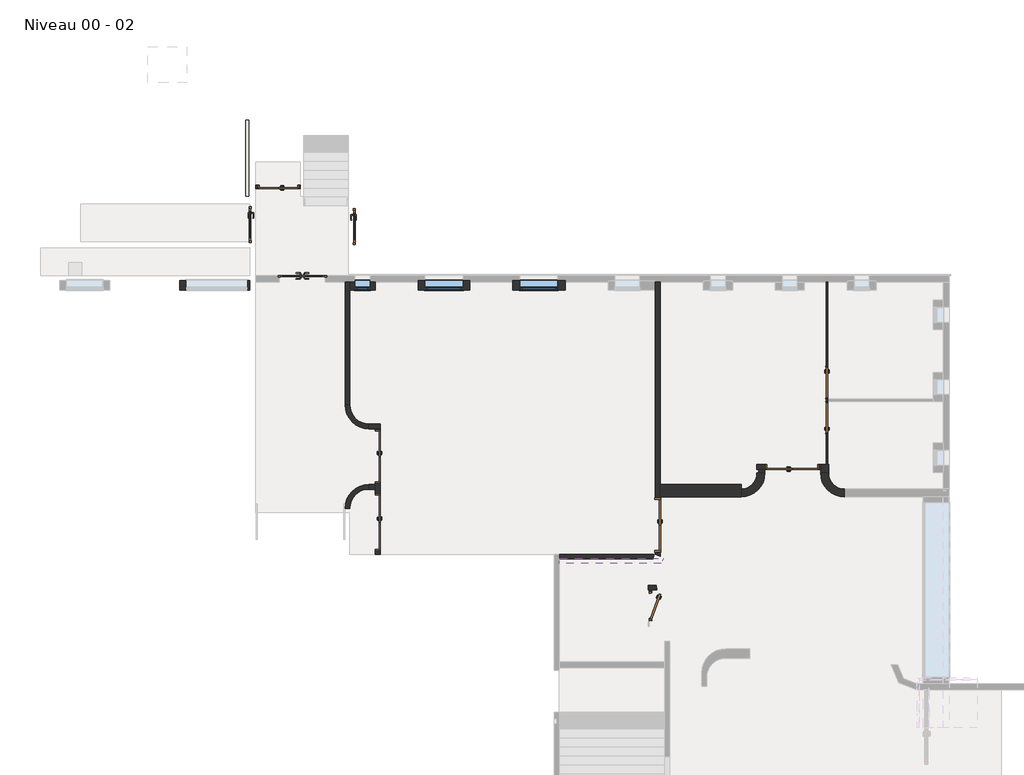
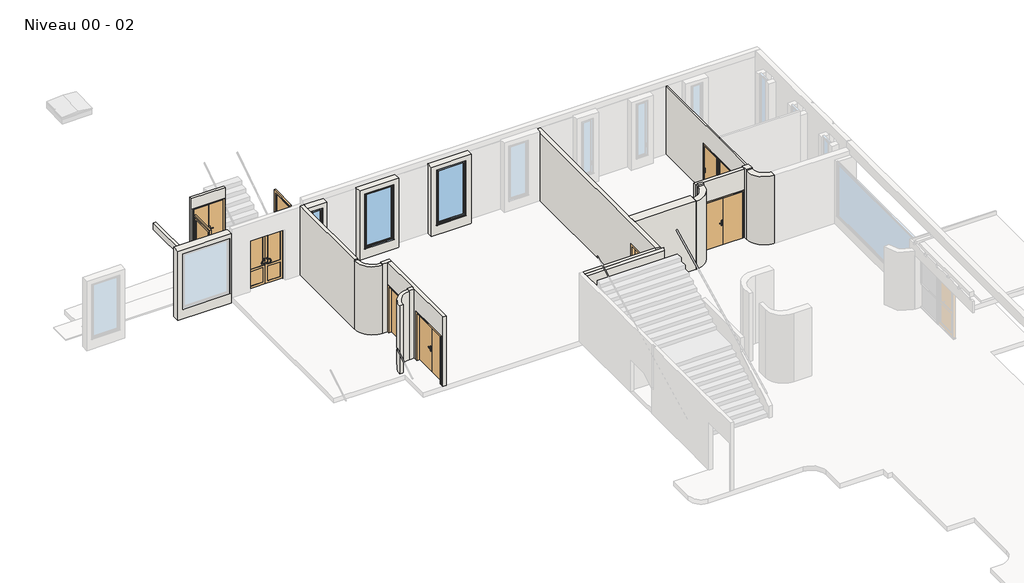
# One storey, part 4 of 6: 24 walls, 11 doors, 3 windows.
"""IFC4 building model written with IfcOpenShell, lengths in millimetres."""

from ifc_helpers import new_model, si_unit, point, frame, frame_2d, origin, place, context, project, spatial, polyline, circle_curve, trimmed, segment, composite_curve, outline, extrude, faceted_brep, transform, mapped, element, save
from ifc_brep_helpers import plane_surface, cylinder_surface, revolved_surface, advanced_brep
from components import door_a878cc18, door_bfc2bf88, door_bd61b35e, door_1_43m_x_2_20m_84f75056, door_103m_x_2_20m_4d5dba2b, door_103m_x_2_20m_9864a9ee, double_r_1_23m_x_2_04m_7282032c, double_r_1_63m_x_2_04m_8878719f, double_r_1_63m_x_2_04m_2a7b6570, double_r_1_63m_x_2_04m_953f21a6, double_r_1_73m_x_2_10m_095f5508, window_120_x_240_cm_ed0a219b, window_48_x_240_cm_3727ab81

model = new_model("IFC4")

# Units and contexts
model_context = context("Model", 3, world=origin())
ifc_project = project(units=[si_unit("LENGTHUNIT", "METRE", prefix="MILLI")], contexts=[model_context])

# Site, building, storey
site = spatial("IfcSite", under=ifc_project)
building = spatial("IfcBuilding", under=site)
storey = spatial("IfcBuildingStorey", under=building, Name="Niveau 00 - 02", Elevation=893.3082742)

# Doors
placement = place(None, origin())
door_shape = door_a878cc18(model_context)
element("IfcDoor", 1, ObjectType="@_Int. Simple : @_PP (0.93m x 2.04m)", at=placement, inside=storey, context=model_context, shape_type="MappedRepresentation", body=[
    mapped(door_shape, transform((-803.7390428, 7385.9436204, 893.3082742), x_axis=(0.0, -1.0, 0.0), y_axis=(1.0, 0.0, 0.0), z_axis=(0.0, 0.0, 1.0))),
])
door_2_shape = door_bfc2bf88(model_context)
element("IfcDoor", 2, ObjectType="@_Int. Simple : @_PP (0.93m x 2.04m)", at=placement, inside=storey, context=model_context, shape_type="MappedRepresentation", body=[
    mapped(door_2_shape, transform((-803.7390428, 6350.4198052, 893.3082742), x_axis=(0.0, 1.0, 0.0), y_axis=(-1.0, 0.0, 0.0), z_axis=(0.0, 0.0, 1.0))),
])
door_3_shape = door_bd61b35e(model_context)
element("IfcDoor", 3, ObjectType="@_Int. Simple : @_PP (0.83m x 2.04m)", at=placement, inside=storey, context=model_context, shape_type="MappedRepresentation", body=[
    mapped(door_3_shape, transform((-6346.1268419, 361.6441613, 893.3082742), x_axis=(0.0, -1.0, 0.0), y_axis=(1.0, 0.0, 0.0), z_axis=(0.0, 0.0, 1.0))),
])
door_1_43m_x_2_20m_shape = door_1_43m_x_2_20m_84f75056(model_context)
element("IfcDoor", 4, ObjectType="PVC Double - Panneaux vitrés haut : 1.43m x 2.20m", at=placement, inside=storey, context=model_context, shape_type="MappedRepresentation", body=[
    mapped(door_1_43m_x_2_20m_shape, transform((-17283.4367882, 10680.8848589, 893.3082742), x_axis=(1.0, 0.0, 0.0), y_axis=(0.0, 1.0, 0.0), z_axis=(0.0, 0.0, 1.0))),
])
door_103m_x_2_20m_shape = door_103m_x_2_20m_4d5dba2b(model_context)
element("IfcDoor", 5, ObjectType="PVC Panneau Vitré - Traverse : 103m x 2.20m", at=placement, inside=storey, context=model_context, shape_type="MappedRepresentation", body=[
    mapped(door_103m_x_2_20m_shape, transform((-18844.0938634, 12386.9176444, 893.3082742), x_axis=(0.0, -1.0, 0.0), y_axis=(1.0, 0.0, 0.0), z_axis=(0.0, 0.0, 1.0))),
])
door_103m_x_2_20m_2_shape = door_103m_x_2_20m_9864a9ee(model_context)
element("IfcDoor", 6, ObjectType="PVC Panneau Vitré - Traverse : 103m x 2.20m", at=placement, inside=storey, context=model_context, shape_type="MappedRepresentation", body=[
    mapped(door_103m_x_2_20m_2_shape, transform((-15735.8209314, 12326.9176444, 893.3082742), x_axis=(0.0, -1.0, 0.0), y_axis=(1.0, 0.0, 0.0), z_axis=(0.0, 0.0, 1.0))),
])
double_r_1_23m_x_2_04m_shape = double_r_1_23m_x_2_04m_7282032c(model_context)
element("IfcDoor", 7, ObjectType="Double (R) : 1.23m x 2.04m", at=placement, inside=storey, context=model_context, shape_type="MappedRepresentation", body=[
    mapped(double_r_1_23m_x_2_04m_shape, transform((-18034.0938634, 13571.9176444, 893.3082742), x_axis=(1.0, 0.0, 0.0), y_axis=(0.0, 1.0, 0.0), z_axis=(0.0, 0.0, 1.0))),
])
double_r_1_63m_x_2_04m_shape = double_r_1_63m_x_2_04m_8878719f(model_context)
element("IfcDoor", 8, ObjectType="Double (R) : 1.63m x 2.04m", at=placement, inside=storey, context=model_context, shape_type="MappedRepresentation", body=[
    mapped(double_r_1_63m_x_2_04m_shape, transform((-1889.3466725, 4763.5448052, 893.3082742), x_axis=(-1.0, 0.0, 0.0), y_axis=(0.0, -1.0, 0.0), z_axis=(0.0, 0.0, 1.0))),
])
double_r_1_63m_x_2_04m_2_shape = double_r_1_63m_x_2_04m_2a7b6570(model_context)
element("IfcDoor", 9, ObjectType="Double (R) : 1.63m x 2.04m", at=placement, inside=storey, context=model_context, shape_type="MappedRepresentation", body=[
    mapped(double_r_1_63m_x_2_04m_2_shape, transform((-14919.7120712, 5090.6996043, 893.3082742), x_axis=(0.0, 1.0, 0.0), y_axis=(-1.0, 0.0, 0.0), z_axis=(0.0, 0.0, 1.0))),
])
double_r_1_63m_x_2_04m_3_shape = double_r_1_63m_x_2_04m_953f21a6(model_context)
element("IfcDoor", 10, ObjectType="Double (R) : 1.63m x 2.04m", at=placement, inside=storey, context=model_context, shape_type="MappedRepresentation", body=[
    mapped(double_r_1_63m_x_2_04m_3_shape, transform((-6118.0226928, 2936.1922768, 893.3082742), x_axis=(0.0, 1.0, 0.0), y_axis=(-1.0, 0.0, 0.0), z_axis=(0.0, 0.0, 1.0))),
])
double_r_1_73m_x_2_10m_shape = double_r_1_73m_x_2_10m_095f5508(model_context)
element("IfcDoor", 11, ObjectType="Double (R) : 1.73m x 2.10m", at=placement, inside=storey, context=model_context, shape_type="MappedRepresentation", body=[
    mapped(double_r_1_73m_x_2_10m_shape, transform((-14919.7120712, 3028.322643, 893.3082742), x_axis=(0.0, 1.0, 0.0), y_axis=(-1.0, 0.0, 0.0), z_axis=(0.0, 0.0, 1.0))),
])

# Walls
element("IfcWall", 12, ObjectType="@_Générique - Int. 200 mm", at=placement, inside=storey, context=model_context, shape_type="Brep", body=[
    faceted_brep([(-2949.6844887, 4688.5448052, 893.3082742), (-2949.6844888, 4570.8848596, 893.3082742), (-2949.6844888, 4570.8848596, 3921.8727639), (-2949.6844887, 4688.5448052, 3921.8727639), (-2749.6844887, 4688.5448052, 893.3082742), (-2749.6844887, 4688.5448052, 3921.8727639), (-2749.6844888, 4570.8848595, 3921.8727639), (-2749.6844888, 4570.8848595, 3871.8727639), (-2749.6844888, 4570.8848595, 893.3082742)], [[[0, 1, 2, 3]], [[4, 5, 6, 7, 8]], [[1, 0, 4, 8]], [[2, 1, 8, 7, 6]], [[3, 2, 6, 5]], [[0, 3, 5, 4]]]),
])
element("IfcWall", 13, ObjectType="@_Générique - Int. 100 mm", at=placement, inside=storey, context=model_context, shape_type="SweptSolid", body=[
    extrude(outline(polyline([(-19063.9891753, 13288.4605943), (-19063.9891753, 15669.103386), (-18963.9891753, 15669.103386), (-18963.9891753, 13288.4605943), (-19063.9891753, 13288.4605943)])), frame((0.0, 0.0, 893.3082742), z_axis=(0.0, 0.0, 1.0), x_axis=(1.0, 0.0, 0.0)), (0.0, 0.0, 1.0), 300.0),
])
element("IfcWall", 14, ObjectType="@_Générique - Int. 100 mm", at=placement, inside=storey, context=model_context, shape_type="SweptSolid", body=[
    extrude(outline(polyline([(3437.9322848, -17344.0938634), (3437.9322848, -18744.0938634), (893.3082742, -18744.0938634), (893.3082742, -18684.0938634), (2968.3082742, -18684.0938634), (2968.3082742, -17384.0938634), (893.3082742, -17384.0938634), (893.3082742, -17344.0938634), (3437.9322848, -17344.0938634)])), frame((0.0, 13521.9176444, 0.0), z_axis=(0.0, 1.0, 0.0), x_axis=(0.0, 0.0, 1.0)), (0.0, 0.0, 1.0), 100.0),
])
element("IfcWall", 15, ObjectType="@_Générique - Int. 70 mm", at=placement, inside=storey, context=model_context, shape_type="AdvancedBrep", body=[
    advanced_brep(
    [(-6381.1268419, -253.7289625, 3043.9840697), (-6381.1268419, 896.271037, 3672.3151741), (-6381.1268419, 896.271037, 893.3082742), (-6381.1268419, 846.6441613, 893.3082742), (-6381.1268419, 846.6441613, 2968.3082742), (-6381.1268419, -53.3558387, 2968.3082742), (-6381.1268419, -53.3558387, 893.3082742), (-6381.1268419, -103.7289625, 893.3082742), (-6381.1268419, -253.7500561, 893.3082742), (-6381.1268419, -253.7500561, 2893.3082742), (-6311.1268419, 896.271037, 3672.3151741), (-6311.1268419, -253.7289625, 3043.9840697), (-6311.1268419, -253.7289625, 2893.3082742), (-6311.1268419, -258.0835845, 2893.3082742), (-6311.1268419, -258.0835845, 893.3082742), (-6311.1268419, -107.0420031, 893.3082742), (-6311.1268419, -53.3558387, 893.3082742), (-6311.1268419, -53.3558387, 2968.3082742), (-6311.1268419, 846.6441613, 2968.3082742), (-6311.1268419, 846.6441613, 893.3082742), (-6311.1268419, 896.271037, 893.3082742), (-6373.070957, -253.7289625, 2893.3082742), (-6378.6022513, -253.7289625, 2893.3082742)],
    [
        (0, 1),
        (1, 2),
        (2, 3),
        (3, 4),
        (4, 5),
        (5, 6),
        (6, 7),
        (7, 8),
        (8, 9),
        (9, 0),
        (10, 11),
        (11, 12),
        (12, 13),
        (13, 14),
        (14, 15),
        (15, 16),
        (16, 17),
        (17, 18),
        (18, 19),
        (19, 20),
        (20, 10),
        (2, 20),
        (19, 3),
        (14, 8, circle_curve(frame((-6375.8366042, -735.8221567, 893.3082742), z_axis=(0.0, 0.0, 1.0), x_axis=(1.0, 0.0, 0.0)), 482.101127)),
        (6, 16),
        (0, 11),
        (10, 1),
        (5, 17),
        (4, 18),
        (12, 21),
        (21, 13, circle_curve(frame((-6375.8366042, -735.8221567, 2893.3082742), z_axis=(0.0, 0.0, -1.0), x_axis=(1.0, 0.0, 0.0)), 482.101127)),
        (21, 22, circle_curve(frame((-6375.8366042, -735.8221567, 2893.3082742), z_axis=(0.0, 0.0, 1.0), x_axis=(1.0, 0.0, 0.0)), 482.101127)),
        (22, 9, circle_curve(frame((-6375.8366042, -735.8221567, 2893.3082742), z_axis=(0.0, 0.0, 1.0), x_axis=(1.0, 0.0, 0.0)), 482.101127)),
    ],
    [
        plane_surface(frame((-6381.1268419, 971.271037, 893.3082742), z_axis=(-1.0, 0.0, 0.0), x_axis=(0.0, -1.0, 0.0))),
        plane_surface(frame((-6311.1268419, 971.271037, 893.3082742), z_axis=(1.0, 0.0, 0.0), x_axis=(0.0, 1.0, 0.0))),
        plane_surface(frame((-6381.1268419, 971.271037, 893.3082742), z_axis=(0.0, 0.0, -1.0), x_axis=(1.0, 0.0, 0.0))),
        plane_surface(frame((-6381.1268419, -179.5137927, 3084.5333737), z_axis=(0.0, -0.47947445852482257, 0.8775558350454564), x_axis=(1.0, 0.0, 0.0))),
        plane_surface(frame((-7835.1268419, -53.3558387, 893.3082742), z_axis=(0.0, 1.0, 0.0), x_axis=(1.0, 0.0, 0.0))),
        plane_surface(frame((-7835.1268419, -53.3558387, 2968.3082742), z_axis=(0.0, 0.0, -1.0), x_axis=(1.0, 0.0, 0.0))),
        plane_surface(frame((-7835.1268419, 846.6441613, 2968.3082742), z_axis=(0.0, -1.0, 0.0), x_axis=(1.0, 0.0, 0.0))),
        plane_surface(frame((-6284.0, 896.271037, 893.3082742), z_axis=(0.0, 1.0, 0.0), x_axis=(1.0, 0.0, 0.0))),
        plane_surface(frame((-6381.1268419, -179.5137927, 2893.3082742), z_axis=(0.0, 0.0, 1.0), x_axis=(1.0, 0.0, 0.0))),
        revolved_surface(polyline([(-5893.7354772, -735.8221567, 893.3082742), (-5893.7354772, -735.8221567, 2893.3082742)]), (-6375.8366042, -735.8221567, 893.3082742), (0.0, 0.0, -1.0)),
        plane_surface(frame((-6353.6352589, -253.7289625, 893.3082742), z_axis=(0.0, -1.0, 0.0), x_axis=(1.0, 0.0, 0.0))),
    ],
    [
        (0, [[1, 2, 3, 4, 5, 6, 7, 8, 9, 10]]),
        (1, [[11, 12, 13, 14, 15, 16, 17, 18, 19, 20, 21]]),
        (2, [[22, -20, 23, -3]]),
        (2, [[24, -8, -7, 25, -16, -15]]),
        (3, [[-1, 26, -11, 27]]),
        (4, [[28, -17, -25, -6]]),
        (5, [[-28, -5, 29, -18]]),
        (6, [[-29, -4, -23, -19]]),
        (7, [[-2, -27, -21, -22]]),
        (8, [[-13, 30, 31]]),
        (9, [[-24, -14, -31, 32, 33, -9]]),
        (10, [[-26, -10, -33, -32, -30, -12]]),
    ],
),
])
element("IfcWall", 16, ObjectType="@_Générique - Int. 50 mm", at=placement, inside=storey, context=model_context, shape_type="Brep", body=[
    faceted_brep([(-828.7390428, 4838.5448052, 893.3082742), (-828.7390428, 4838.5448052, 3871.8727639), (-828.7390428, 10580.8848589, 3871.8727639), (-828.7390428, 10580.8848589, 893.3082742), (-828.7390428, 7920.9436204, 893.3082742), (-828.7390428, 7920.9436204, 2968.3082742), (-828.7390428, 6920.9436204, 2968.3082742), (-828.7390428, 6920.9436204, 893.3082742), (-828.7390428, 6815.4198052, 893.3082742), (-828.7390428, 6815.4198052, 2968.3082742), (-828.7390428, 5815.4198052, 2968.3082742), (-828.7390428, 5815.4198052, 893.3082742), (-778.7390428, 4838.5448052, 3871.8727639), (-778.7390428, 4838.5448052, 893.3082742), (-778.7390428, 5815.4198052, 893.3082742), (-778.7390428, 5815.4198052, 2968.3082742), (-778.7390428, 6815.4198052, 2968.3082742), (-778.7390428, 6815.4198052, 893.3082742), (-778.7390428, 6830.6817128, 893.3082742), (-778.7390428, 6900.6817128, 893.3082742), (-778.7390428, 6920.9436204, 893.3082742), (-778.7390428, 6920.9436204, 2968.3082742), (-778.7390428, 7920.9436204, 2968.3082742), (-778.7390428, 7920.9436204, 893.3082742), (-778.7390428, 10580.8848589, 893.3082742), (-778.7390428, 10580.8848589, 3871.8727639), (-778.7390428, 6900.6817128, 3871.8727639), (-778.7390428, 6830.6817128, 3871.8727639)], [[[0, 1, 2, 3, 4, 5, 6, 7, 8, 9, 10, 11]], [[12, 13, 14, 15, 16, 17, 18, 19, 20, 21, 22, 23, 24, 25, 26, 27]], [[13, 0, 11, 14]], [[17, 8, 7, 20, 19, 18]], [[3, 24, 23, 4]], [[1, 0, 13, 12]], [[9, 8, 17, 16]], [[11, 10, 15, 14]], [[15, 10, 9, 16]], [[2, 1, 12, 27, 26, 25]], [[3, 2, 25, 24]], [[6, 21, 20, 7]], [[21, 6, 5, 22]], [[22, 5, 4, 23]]]),
])
element("IfcWall", 17, ObjectType="Ext. Voile BA 150", at=placement, inside=storey, context=model_context, shape_type="Brep", body=[
    faceted_brep([(-15943.9891644, 10580.8848589, 893.3082742), (-15943.9891644, 6715.6996048, 893.3082742), (-15943.9891644, 6715.6996048, 3871.8727639), (-15943.9891644, 6715.6996048, 3921.8727639), (-15943.9891644, 10580.8848589, 3921.8727639), (-15793.9891644, 10580.8848589, 893.3082742), (-15793.9891644, 10580.8848589, 3921.8727639), (-15793.9891644, 10320.8848589, 3921.8727639), (-15793.9891644, 6715.6996048, 3921.8727639), (-15793.9891644, 6715.6996048, 3871.8727639), (-15793.9891644, 6715.6996048, 893.3082742), (-15793.9891644, 10320.8848589, 893.3082742)], [[[0, 1, 2, 3, 4]], [[5, 6, 7, 8, 9, 10, 11]], [[1, 0, 5, 11, 10]], [[3, 2, 1, 10, 9, 8]], [[4, 3, 8, 7, 6]], [[0, 4, 6, 5]]]),
])
element("IfcWall", 18, ObjectType="Ext. Voile BA 150", at=placement, inside=storey, context=model_context, shape_type="Brep", body=[
    faceted_brep([(-14844.7120712, 6115.6996043, 893.3082742), (-15193.9891647, 6115.6996043, 893.3082742), (-15193.9891647, 6115.6996043, 3871.8727639), (-15193.9891647, 6115.6996043, 3921.8727639), (-14844.7120712, 6115.6996043, 3921.8727639), (-14844.7120712, 5965.6996043, 893.3082742), (-14844.7120712, 5965.6996043, 3921.8727639), (-14994.7120712, 5965.6996043, 3921.8727639), (-15193.9891647, 5965.6996043, 3921.8727639), (-15193.9891647, 5965.6996043, 3871.8727639), (-15193.9891647, 5965.6996043, 893.3082742), (-14994.7120712, 5965.6996043, 893.3082742)], [[[0, 1, 2, 3, 4]], [[5, 6, 7, 8, 9, 10, 11]], [[1, 0, 5, 11, 10]], [[3, 2, 1, 10, 9, 8]], [[4, 3, 8, 7, 6]], [[0, 4, 6, 5]]]),
])
element("IfcWall", 19, ObjectType="Ext. Voile BA 150", at=placement, inside=storey, context=model_context, shape_type="SweptSolid", body=[
    extrude(outline(composite_curve([segment(polyline([(-15943.9891647, 6715.6996049), (-15793.9891647, 6715.6996047)]), True, "CONTINUOUS"), segment(trimmed(circle_curve(frame_2d((-15193.9891647, 6715.6996039)), 600.0), [point((-15793.9891647, 6715.6996047))], [point((-15193.9891647, 6115.6996039))], True, "CARTESIAN"), True, "CONTINUOUS"), segment(polyline([(-15193.9891647, 6115.6996039), (-15193.9891647, 5965.6996039)]), True, "CONTINUOUS"), segment(trimmed(circle_curve(frame_2d((-15193.9891647, 6715.6996039)), 750.0), [point((-15193.9891647, 5965.6996039))], [point((-15943.9891647, 6715.6996049))], False, "CARTESIAN"), True, "CONTINUOUS")], self_intersect=False)), frame((0.0, 0.0, 893.3082742), z_axis=(0.0, 0.0, 1.0), x_axis=(1.0, 0.0, 0.0)), (0.0, 0.0, 1.0), 2978.5644896),
])
element("IfcWall", 20, ObjectType="Ext. Voile BA 150", at=placement, inside=storey, context=model_context, shape_type="Brep", body=[
    faceted_brep([(-14994.7120712, 4215.6996044, 893.3082742), (-15193.9891688, 4215.6996044, 893.3082742), (-15193.9891688, 4215.6996044, 3871.8727639), (-15193.9891688, 4215.6996044, 3921.8727639), (-14994.7120712, 4215.6996044, 3921.8727639), (-14994.7120712, 4065.6996044, 893.3082742), (-14994.7120712, 4065.6996044, 3921.8727639), (-15193.9891688, 4065.6996044, 3921.8727639), (-15193.9891688, 4065.6996044, 3871.8727639), (-15193.9891688, 4065.6996044, 893.3082742)], [[[0, 1, 2, 3, 4]], [[5, 6, 7, 8, 9]], [[1, 0, 5, 9]], [[3, 2, 1, 9, 8, 7]], [[4, 3, 7, 6]], [[0, 4, 6, 5]]]),
])
element("IfcWall", 21, ObjectType="Ext. Voile BA 150", at=placement, inside=storey, context=model_context, shape_type="SweptSolid", body=[
    extrude(outline(composite_curve([segment(polyline([(-15793.9891688, 3465.6996039), (-15943.9891688, 3465.6996037)]), True, "CONTINUOUS"), segment(trimmed(circle_curve(frame_2d((-15193.9891688, 3465.6996047)), 750.0), [point((-15943.9891688, 3465.6996037))], [point((-15193.9891688, 4215.6996047))], False, "CARTESIAN"), True, "CONTINUOUS"), segment(polyline([(-15193.9891688, 4215.6996047), (-15193.9891688, 4065.6996047)]), True, "CONTINUOUS"), segment(trimmed(circle_curve(frame_2d((-15193.9891688, 3465.6996047)), 600.0), [point((-15193.9891688, 4065.6996047))], [point((-15793.9891688, 3465.6996039))], True, "CARTESIAN"), True, "CONTINUOUS")], self_intersect=False)), frame((0.0, 0.0, 893.3082742), z_axis=(0.0, 0.0, 1.0), x_axis=(1.0, 0.0, 0.0)), (0.0, 0.0, 1.0), 2978.5644896),
])
element("IfcWall", 22, ObjectType="Ext. Voile BA 150", at=placement, inside=storey, context=model_context, shape_type="Brep", body=[
    faceted_brep([(-6171.9421248, 1046.271037, 893.3082742), (-6416.4826157, 1046.271037, 893.3082742), (-6416.4826157, 1046.271037, 3871.8727639), (-6171.9421248, 1046.271037, 3871.8727639), (-6145.998807, 896.271037, 893.3082742), (-6145.998807, 896.271037, 3871.8727639), (-6416.4826157, 896.271037, 3871.8727639), (-6416.4826157, 896.271037, 893.3082742), (-6381.1268419, 896.271037, 893.3082742), (-6311.1268419, 896.271037, 893.3082742), (-6416.4826157, 1004.4291646, 3871.8727639), (-6164.7053449, 1004.4291646, 3871.8727639)], [[[0, 1, 2, 3]], [[4, 5, 6, 7, 8, 9]], [[1, 0, 4, 9, 8, 7]], [[2, 1, 7, 6, 10]], [[10, 6, 5, 11]], [[3, 2, 10, 11]], [[0, 3, 11, 5, 4]]]),
])
element("IfcWall", 23, ObjectType="Ext. Voile BA 150", at=placement, inside=storey, context=model_context, shape_type="Brep", body=[
    faceted_brep([(-3007.810838, 4838.5448052, 893.3082742), (-3007.810838, 4838.5448052, 3871.8727639), (-999.7174383, 4838.5448052, 3871.8727639), (-999.7174383, 4838.5448052, 893.3082742), (-1039.3466725, 4838.5448052, 893.3082742), (-1039.3466725, 4838.5448052, 2968.3082742), (-2739.3466725, 4838.5448052, 2968.3082742), (-2739.3466725, 4838.5448052, 893.3082742), (-3007.810838, 4688.5448052, 3871.8727639), (-3007.810838, 4688.5448052, 893.3082742), (-2949.6844887, 4688.5448052, 893.3082742), (-2749.6844887, 4688.5448052, 893.3082742), (-2739.3466725, 4688.5448052, 893.3082742), (-2739.3466725, 4688.5448052, 2968.3082742), (-1039.3466725, 4688.5448052, 2968.3082742), (-1039.3466725, 4688.5448052, 893.3082742), (-999.7174382, 4688.5448052, 893.3082742), (-999.7174382, 4688.5448052, 3871.8727639)], [[[0, 1, 2, 3, 4, 5, 6, 7]], [[8, 9, 10, 11, 12, 13, 14, 15, 16, 17]], [[9, 0, 7, 12, 11, 10]], [[3, 16, 15, 4]], [[1, 0, 9, 8]], [[3, 2, 17, 16]], [[6, 13, 12, 7]], [[14, 5, 4, 15]], [[5, 14, 13, 6]], [[2, 1, 8, 17]]]),
])
element("IfcWall", 24, ObjectType="Ext. Voile BA 150", at=placement, inside=storey, context=model_context, shape_type="Brep", body=[
    faceted_brep([(-14994.7120712, 2020.9456807, 3921.8727639), (-14994.7120712, 4065.6996044, 3921.8727639), (-14994.7120712, 4215.6996044, 3921.8727639), (-14994.7120712, 5965.6996043, 3921.8727639), (-14994.7120712, 5965.6996043, 893.3082742), (-14994.7120712, 5940.6996043, 893.3082742), (-14994.7120712, 5940.6996043, 2968.3082742), (-14994.7120712, 4240.6996043, 2968.3082742), (-14994.7120712, 4240.6996043, 893.3082742), (-14994.7120712, 4215.6996044, 893.3082742), (-14994.7120712, 4065.6996044, 893.3082742), (-14994.7120712, 3928.322643, 893.3082742), (-14994.7120712, 3928.322643, 3028.3082742), (-14994.7120712, 2128.322643, 3028.3082742), (-14994.7120712, 2128.322643, 893.3082742), (-14994.7120712, 2020.9456807, 893.3082742), (-14844.7120712, 5965.6996043, 3921.8727639), (-14844.7120712, 2020.9456807, 3921.8727639), (-14844.7120712, 2020.9456807, 893.3082742), (-14844.7120712, 2128.322643, 893.3082742), (-14844.7120712, 2128.322643, 3028.3082742), (-14844.7120712, 3928.322643, 3028.3082742), (-14844.7120712, 3928.322643, 893.3082742), (-14844.7120712, 4240.6996043, 893.3082742), (-14844.7120712, 4240.6996043, 2968.3082742), (-14844.7120712, 5940.6996043, 2968.3082742), (-14844.7120712, 5940.6996043, 893.3082742), (-14844.7120712, 5965.6996043, 893.3082742)], [[[0, 1, 2, 3, 4, 5, 6, 7, 8, 9, 10, 11, 12, 13, 14, 15]], [[16, 17, 18, 19, 20, 21, 22, 23, 24, 25, 26, 27]], [[18, 15, 14, 19]], [[8, 23, 22, 11, 10, 9]], [[4, 27, 26, 5]], [[3, 2, 1, 0, 17, 16]], [[4, 3, 16, 27]], [[6, 5, 26, 25]], [[8, 7, 24, 23]], [[0, 15, 18, 17]], [[21, 12, 11, 22]], [[13, 20, 19, 14]], [[24, 7, 6, 25]], [[20, 13, 12, 21]]]),
])
element("IfcWall", 25, ObjectType="Ext. Voile BA 150", at=placement, inside=storey, context=model_context, shape_type="Brep", body=[
    faceted_brep([(-9213.9891683, 1736.4996925, 3195.2244093), (-6009.794044, 1736.4996925, 3195.2244093), (-6009.794044, 1736.4996925, 3871.8727639), (-9213.9891683, 1736.4996925, 3871.8727639), (-9213.9891683, 1886.4996925, 3195.2244093), (-9213.9891683, 1886.4996925, 3871.8727639), (-6255.2305404, 1886.4996925, 3871.8727639), (-5949.2931736, 1886.4996925, 3871.8727639), (-5949.2931736, 1886.4996925, 3195.2244093), (-6255.2305404, 1886.4996925, 3195.2244093)], [[[0, 1, 2, 3]], [[4, 5, 6, 7, 8, 9]], [[1, 0, 4, 9, 8]], [[0, 3, 5, 4]], [[3, 2, 7, 6, 5]], [[2, 1, 8, 7]]]),
])
element("IfcWall", 26, ObjectType="Ext. Voile BA 150", at=placement, inside=storey, context=model_context, shape_type="Brep", body=[
    faceted_brep([(-6244.8698335, 2020.9456807, 893.3082742), (-9213.9891683, 2020.9456807, 893.3082742), (-9213.9891683, 2020.9456807, 3871.8727639), (-6244.8698335, 2020.9456807, 3871.8727639), (-6256.4291671, 1870.9456807, 893.3082742), (-6256.4291671, 1870.9456807, 3871.8727639), (-9213.9891683, 1870.9456807, 3871.8727639), (-9213.9891683, 1870.9456807, 893.3082742), (-6255.2305404, 1886.4996925, 3871.8727639)], [[[0, 1, 2, 3]], [[4, 5, 6, 7]], [[1, 0, 4, 7]], [[3, 2, 6, 5, 8]], [[0, 3, 8, 5, 4]], [[2, 1, 7, 6]]]),
])
element("IfcWall", 27, ObjectType="Ext. Voile BA 160", at=placement, inside=storey, context=model_context, shape_type="AdvancedBrep", body=[
    advanced_brep(
    [(-6198.0226928, 10580.8848589, 3871.8727639), (-6198.0226928, 10580.8848589, 893.3082742), (-6198.0226928, 10320.8848589, 893.3082742), (-6198.0226928, 3786.1922768, 893.3082742), (-6198.0226928, 3786.1922768, 2968.3082742), (-6198.0226928, 2086.1922768, 2968.3082742), (-6198.0226928, 2086.1922768, 893.3082742), (-6198.0226928, 2012.2170502, 893.3082742), (-6198.0226928, 2012.2170502, 3871.8727639), (-6038.0226928, 10580.8848589, 893.3082742), (-6038.0226928, 10580.8848589, 3871.8727639), (-6038.0226928, 4220.8848607, 3871.8727639), (-6038.0226928, 3820.8848607, 3871.8727639), (-6038.0226928, 1949.4094127, 3871.8727639), (-6038.0226928, 1949.4094127, 893.3082742), (-6038.0226928, 2086.1922768, 893.3082742), (-6038.0226928, 2086.1922768, 2968.3082742), (-6038.0226928, 3786.1922768, 2968.3082742), (-6038.0226928, 3786.1922768, 893.3082742), (-6038.0226928, 3820.8848607, 893.3082742), (-6038.0226928, 4220.8848607, 893.3082742)],
    [
        (0, 1),
        (1, 2),
        (2, 3),
        (3, 4),
        (4, 5),
        (5, 6),
        (6, 7),
        (7, 8),
        (8, 0),
        (9, 10),
        (10, 11),
        (11, 12),
        (12, 13),
        (13, 14),
        (14, 15),
        (15, 16),
        (16, 17),
        (17, 18),
        (18, 19),
        (19, 20),
        (20, 9),
        (1, 9),
        (18, 3),
        (14, 7, circle_curve(frame((-6327.5730307, 1446.9919416, 893.3082742), z_axis=(0.0, 0.0, 1.0), x_axis=(0.0, 1.0, 0.0)), 579.8816375)),
        (6, 15),
        (0, 10),
        (17, 4),
        (5, 16),
        (8, 13, circle_curve(frame((-6327.5730307, 1446.9919416, 3871.8727639), z_axis=(0.0, 0.0, -1.0), x_axis=(0.0, 1.0, 0.0)), 579.8816375)),
    ],
    [
        plane_surface(frame((-6198.0226928, 2960.4999999, 893.3082742), z_axis=(-1.0, 0.0, 0.0), x_axis=(0.0, -1.0, 0.0))),
        plane_surface(frame((-6038.0226928, 2960.4999999, 893.3082742), z_axis=(1.0, 0.0, 0.0), x_axis=(0.0, 1.0, 0.0))),
        plane_surface(frame((-6198.0226928, 10680.8848589, 893.3082742), z_axis=(0.0, 0.0, -1.0), x_axis=(1.0, 0.0, 0.0))),
        plane_surface(frame((-14028.1532696, 10580.8848589, 893.3082742), z_axis=(0.0, 1.0, 0.0), x_axis=(1.0, 0.0, 0.0))),
        plane_surface(frame((-4514.0226928, 3786.1922768, 893.3082742), z_axis=(0.0, -1.0, 0.0), x_axis=(-1.0, 0.0, 0.0))),
        plane_surface(frame((-4514.0226928, 2086.1922768, 2968.3082742), z_axis=(0.0, 1.0, 0.0), x_axis=(-1.0, 0.0, 0.0))),
        plane_surface(frame((-4514.0226928, 3786.1922768, 2968.3082742), z_axis=(0.0, 0.0, -1.0), x_axis=(-1.0, 0.0, 0.0))),
        plane_surface(frame((-25843.9891731, 10670.8848595, 3871.8727639), z_axis=(0.0, 0.0, 1.0), x_axis=(0.0, 1.0, 0.0))),
        revolved_surface(polyline([(-6327.5730307, 2026.8735791, 3871.8727639), (-6327.5730307, 2026.8735791, 893.3082742)]), (-6327.5730307, 1446.9919416, 893.3082742), (0.0, 0.0, 1.0)),
    ],
    [
        (0, [[1, 2, 3, 4, 5, 6, 7, 8, 9]]),
        (1, [[10, 11, 12, 13, 14, 15, 16, 17, 18, 19, 20, 21]]),
        (2, [[22, -21, -20, -19, 23, -3, -2]]),
        (2, [[24, -7, 25, -15]]),
        (3, [[-1, 26, -10, -22]]),
        (4, [[27, -4, -23, -18]]),
        (5, [[28, -16, -25, -6]]),
        (6, [[-28, -5, -27, -17]]),
        (7, [[-9, 29, -13, -12, -11, -26]]),
        (8, [[-8, -24, -14, -29]]),
    ],
),
])
element("IfcWall", 28, ObjectType="Ext. Voile BA 250", at=placement, inside=storey, context=model_context, shape_type="SweptSolid", body=[
    extrude(outline(composite_curve([segment(polyline([(-249.7174369, 4070.8848607), (-249.7174369, 3820.8848607)]), True, "CONTINUOUS"), segment(trimmed(circle_curve(frame_2d((-249.7174369, 4570.8848601)), 749.9999993), [point((-249.7174369, 3820.8848607))], [point((-999.7174362, 4570.8848606))], False, "CARTESIAN"), True, "CONTINUOUS"), segment(polyline([(-999.7174362, 4570.8848606), (-749.7174362, 4570.8848605)]), True, "CONTINUOUS"), segment(trimmed(circle_curve(frame_2d((-249.7174369, 4570.8848601)), 499.9999993), [point((-749.7174362, 4570.8848605))], [point((-249.7174369, 4070.8848607))], True, "CARTESIAN"), True, "CONTINUOUS")], self_intersect=False)), frame((0.0, 0.0, 893.3082742), z_axis=(0.0, 0.0, 1.0), x_axis=(1.0, 0.0, 0.0)), (0.0, 0.0, 1.0), 2978.5644896),
])
element("IfcWall", 29, ObjectType="Ext. Voile BA 250", at=placement, inside=storey, context=model_context, shape_type="Brep", body=[
    faceted_brep([(-999.7174383, 4838.5448052, 893.3082742), (-999.7174382, 4688.5448052, 893.3082742), (-999.7174381, 4570.8848604, 893.3082742), (-999.7174381, 4570.8848604, 3871.8727639), (-999.7174381, 4570.8848604, 3921.8727639), (-999.7174383, 4838.5448052, 3921.8727639), (-999.7174383, 4838.5448052, 3871.8727639), (-749.7174383, 4838.5448052, 893.3082742), (-749.7174383, 4838.5448052, 3921.8727639), (-749.7174381, 4570.8848607, 3921.8727639), (-749.7174381, 4570.8848607, 3871.8727639), (-749.7174381, 4570.8848607, 893.3082742)], [[[0, 1, 2, 3, 4, 5, 6]], [[7, 8, 9, 10, 11]], [[2, 1, 0, 7, 11]], [[4, 3, 2, 11, 10, 9]], [[5, 4, 9, 8]], [[0, 6, 5, 8, 7]]]),
])
element("IfcWall", 30, ObjectType="Ext. Voile BA 250", at=placement, inside=storey, context=model_context, shape_type="AdvancedBrep", body=[
    advanced_brep(
    [(-2749.7174381, 4570.8848595, 893.3082742), (-3499.7174375, 3820.8848607, 893.3082742), (-3499.7174375, 4070.8848607, 893.3082742), (-2999.7174381, 4570.8848597, 893.3082742), (-2949.6844888, 4570.8848596, 893.3082742), (-2749.7174381, 4570.8848595, 3871.8727639), (-3499.7174375, 3820.8848607, 3871.8727639), (-2999.7174381, 4570.8848597, 3871.8727639), (-3499.7174375, 4070.8848607, 3871.8727639)],
    [
        (0, 1, circle_curve(frame((-3499.7174375, 4570.8848601, 893.3082742), z_axis=(0.0, 0.0, -1.0), x_axis=(1.0, -4.040934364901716e-09, 0.0)), 749.9999994)),
        (1, 2),
        (2, 3, circle_curve(frame((-3499.7174375, 4570.8848601, 893.3082742), z_axis=(0.0, 0.0, 1.0), x_axis=(1.0, -4.040934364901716e-09, 0.0)), 499.9999994)),
        (3, 4),
        (4, 0),
        (0, 5),
        (5, 6, circle_curve(frame((-3499.7174375, 4570.8848601, 3871.8727639), z_axis=(0.0, 0.0, -1.0), x_axis=(1.0, -4.040934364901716e-09, 0.0)), 749.9999994)),
        (6, 1),
        (3, 7),
        (7, 5),
        (2, 8),
        (8, 7, circle_curve(frame((-3499.7174375, 4570.8848601, 3871.8727639), z_axis=(0.0, 0.0, 1.0), x_axis=(1.0, -4.040934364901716e-09, 0.0)), 499.9999994)),
        (6, 8),
    ],
    [
        plane_surface(frame((-2749.7174381, 4570.8848571, 893.3082742), z_axis=(0.0, 0.0, -1.0), x_axis=(-4.040934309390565e-09, -1.0, 0.0))),
        cylinder_surface(frame((-3499.7174375, 4570.8848601, 893.3082742), z_axis=(0.0, 0.0, 1.0), x_axis=(1.0, -4.040934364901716e-09, 0.0)), 749.9999994),
        plane_surface(frame((-2749.7174381, 4570.8848595, 3871.8727639), z_axis=(8.565738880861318e-10, 1.0, 0.0), x_axis=(0.0, 0.0, -1.0))),
        revolved_surface(polyline([(-2999.7174381, 4570.884858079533, 893.3082742), (-2999.7174381, 4570.884858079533, 3871.8727639)]), (-3499.7174375, 4570.8848601, 893.3082742), (0.0, 0.0, -1.0)),
        plane_surface(frame((-3499.7174375, 4070.8848607, 3871.8727639), z_axis=(-1.0, 0.0, 0.0), x_axis=(0.0, 0.0, -1.0))),
        plane_surface(frame((-25843.9891731, 10670.8848595, 3871.8727639), z_axis=(0.0, 0.0, 1.0), x_axis=(0.0, 1.0, 0.0))),
    ],
    [
        (0, [[1, 2, 3, 4, 5]]),
        (1, [[-1, 6, 7, 8]]),
        (2, [[-5, -4, 9, 10, -6]]),
        (3, [[-3, 11, 12, -9]]),
        (4, [[-2, -8, 13, -11]]),
        (5, [[-7, -10, -12, -13]]),
    ],
),
])
element("IfcWall", 31, ObjectType="Ext. Voile BA 300", at=placement, inside=storey, context=model_context, shape_type="Brep", body=[
    faceted_brep([(-12025.2048797, 10620.8848589, 893.3082742), (-13643.9891658, 10620.8848589, 893.3082742), (-13643.9891658, 10620.8848589, 3921.8727639), (-12025.2048797, 10620.8848589, 3921.8727639), (-12233.9891646, 10620.8848589, 1323.3082742), (-12233.9891646, 10620.8848589, 3723.3082742), (-13433.9891646, 10620.8848589, 3723.3082742), (-13433.9891646, 10620.8848589, 1323.3082742), (-13643.9891658, 10320.8848589, 893.3082742), (-12025.2048797, 10320.8848589, 893.3082742), (-12025.2048797, 10320.8848589, 3921.8727639), (-13643.9891658, 10320.8848589, 3921.8727639), (-12233.9891646, 10320.8848589, 3723.3082742), (-12233.9891646, 10320.8848589, 1323.3082742), (-13433.9891646, 10320.8848589, 1323.3082742), (-13433.9891646, 10320.8848589, 3723.3082742), (-12025.2048797, 10580.8848589, 893.3082742), (-13643.9891658, 10580.8848589, 893.3082742), (-13643.9891658, 10590.8848592, 3921.8727639), (-12025.2048797, 10590.8848592, 3921.8727639)], [[[0, 1, 2, 3], [4, 5, 6, 7]], [[8, 9, 10, 11], [12, 13, 14, 15]], [[1, 0, 16, 9, 8, 17]], [[2, 1, 17, 8, 11, 18]], [[3, 2, 18, 11, 10, 19]], [[0, 3, 19, 10, 9, 16]], [[4, 13, 12, 5]], [[5, 12, 15, 6]], [[6, 15, 14, 7]], [[13, 4, 7, 14]]]),
])
element("IfcWall", 32, ObjectType="Ext. Voile BA 300", at=placement, inside=storey, context=model_context, shape_type="Brep", body=[
    faceted_brep([(-9025.2048778, 10620.8848589, 893.3082742), (-10675.2048782, 10620.8848589, 893.3082742), (-10675.2048782, 10620.8848589, 3921.8727639), (-9025.2048778, 10620.8848589, 3921.8727639), (-9255.2048789, 10620.8848589, 1323.3082742), (-9255.2048789, 10620.8848589, 3723.3082742), (-10455.2048789, 10620.8848589, 3723.3082742), (-10455.2048789, 10620.8848589, 1323.3082742), (-10675.2048782, 10320.8848589, 893.3082742), (-9025.2048778, 10320.8848589, 893.3082742), (-9025.2048778, 10320.8848589, 3921.8727639), (-10675.2048782, 10320.8848589, 3921.8727639), (-9255.2048789, 10320.8848589, 3723.3082742), (-9255.2048789, 10320.8848589, 1323.3082742), (-10455.2048789, 10320.8848589, 1323.3082742), (-10455.2048789, 10320.8848589, 3723.3082742), (-9025.2048778, 10580.8848589, 893.3082742), (-10675.2048782, 10580.8848589, 893.3082742), (-10675.2048782, 10590.8848592, 3921.8727639), (-9025.2048778, 10590.8848592, 3921.8727639)], [[[0, 1, 2, 3], [4, 5, 6, 7]], [[8, 9, 10, 11], [12, 13, 14, 15]], [[1, 0, 16, 9, 8, 17]], [[2, 1, 17, 8, 11, 18]], [[3, 2, 18, 11, 10, 19]], [[0, 3, 19, 10, 9, 16]], [[4, 13, 12, 5]], [[5, 12, 15, 6]], [[6, 15, 14, 7]], [[13, 4, 7, 14]]]),
])
element("IfcWall", 33, ObjectType="Ext. Voile BA 300", at=placement, inside=storey, context=model_context, shape_type="SweptSolid", body=[
    extrude(outline(polyline([(893.3082742, -15793.9891644), (893.3082742, -14993.9891654), (3921.8727639, -14993.9891654), (3921.8727639, -15793.9891644), (893.3082742, -15793.9891644)]), holes=[polyline([(3723.3082742, -15155.8209314), (1323.3082742, -15155.8209314), (1323.3082742, -15635.8209314), (3723.3082742, -15635.8209314), (3723.3082742, -15155.8209314)])]), frame((0.0, 10320.8848589, 0.0), z_axis=(0.0, 1.0, 0.0), x_axis=(0.0, 0.0, 1.0)), (0.0, 0.0, 1.0), 260.0),
])
element("IfcWall", 34, ObjectType="Ext. Voile BA 300", at=placement, inside=storey, context=model_context, shape_type="Brep", body=[
    faceted_brep([(-18944.0938634, 10620.8848589, 893.3082742), (-21145.3511424, 10620.8848589, 893.3082742), (-21145.3511424, 10620.8848589, 3921.8727639), (-18944.0938634, 10620.8848589, 3921.8727639), (-18994.0938634, 10620.8848589, 1323.3082742), (-18994.0938634, 10620.8848589, 3723.3082742), (-20944.0938634, 10620.8848589, 3723.3082742), (-20944.0938634, 10620.8848589, 1323.3082742), (-21145.3511424, 10320.8848589, 893.3082742), (-18944.0938634, 10320.8848589, 893.3082742), (-18944.0938634, 10320.8848589, 3921.8727639), (-21145.3511424, 10320.8848589, 3921.8727639), (-18994.0938634, 10320.8848589, 3723.3082742), (-18994.0938634, 10320.8848589, 1323.3082742), (-20944.0938634, 10320.8848589, 1323.3082742), (-20944.0938634, 10320.8848589, 3723.3082742), (-18944.0938634, 10600.8848592, 893.3082742), (-18944.0938634, 10580.8848589, 893.3082742), (-21145.3511424, 10580.8848589, 893.3082742), (-21145.3511424, 10580.8848589, 3921.8727639), (-18944.0938634, 10580.8848589, 3921.8727639)], [[[0, 1, 2, 3], [4, 5, 6, 7]], [[8, 9, 10, 11], [12, 13, 14, 15]], [[1, 0, 16, 17, 9, 8, 18]], [[2, 1, 18, 8, 11, 19]], [[3, 2, 19, 11, 10, 20]], [[4, 13, 12, 5]], [[5, 12, 15, 6]], [[6, 15, 14, 7]], [[13, 4, 7, 14]], [[0, 3, 20, 10, 9, 17, 16]]]),
])
element("IfcWall", 35, ObjectType="Ext. Voile BA 400", at=placement, inside=storey, context=model_context, shape_type="Brep", body=[
    faceted_brep([(-6038.0226928, 3820.8848607, 893.3082742), (-3499.7174375, 3820.8848607, 893.3082742), (-3499.7174375, 3820.8848607, 3871.8727639), (-3623.9891754, 3820.8848607, 3871.8727639), (-3693.9891754, 3820.8848607, 3871.8727639), (-6038.0226928, 3820.8848607, 3871.8727639), (-6038.0226928, 4220.8848607, 893.3082742), (-6038.0226928, 4220.8848607, 3871.8727639), (-3499.7174375, 4220.8848607, 3871.8727639), (-3499.7174375, 4220.8848607, 893.3082742), (-3499.7174375, 4070.8848607, 893.3082742), (-3499.7174375, 4070.8848607, 3871.8727639)], [[[0, 1, 2, 3, 4, 5]], [[6, 7, 8, 9]], [[1, 0, 6, 9, 10]], [[2, 1, 10, 9, 8, 11]], [[0, 5, 7, 6]], [[5, 4, 3, 2, 11, 8, 7]]]),
])

# Windows
window_120_x_240_cm_shape = window_120_x_240_cm_ed0a219b(model_context)
element("IfcWindow", 36, ObjectType="Fenêtre type 1 : 120 x 240 cm", at=placement, inside=storey, context=model_context, shape_type="MappedRepresentation", body=[
    mapped(window_120_x_240_cm_shape, transform((-9855.2048789, 10470.8848589, 523.3082742), x_axis=(-1.0, 0.0, 0.0), y_axis=(0.0, -1.0, 0.0), z_axis=(0.0, 0.0, 1.0))),
])
element("IfcWindow", 37, ObjectType="Fenêtre type 1 : 120 x 240 cm", at=placement, inside=storey, context=model_context, shape_type="MappedRepresentation", body=[
    mapped(window_120_x_240_cm_shape, transform((-12833.9891646, 10470.8848589, 523.3082742), x_axis=(-1.0, 0.0, 0.0), y_axis=(0.0, -1.0, 0.0), z_axis=(0.0, 0.0, 1.0))),
])
window_48_x_240_cm_shape = window_48_x_240_cm_3727ab81(model_context)
element("IfcWindow", 38, ObjectType="Fenêtre type 1 : 48 x 240 cm", at=placement, inside=storey, context=model_context, shape_type="MappedRepresentation", body=[
    mapped(window_48_x_240_cm_shape, transform((-15395.8209314, 10470.8848589, 523.3082742), x_axis=(-1.0, 0.0, 0.0), y_axis=(0.0, -1.0, 0.0), z_axis=(0.0, 0.0, 1.0))),
])

save(model, "model.ifc")
